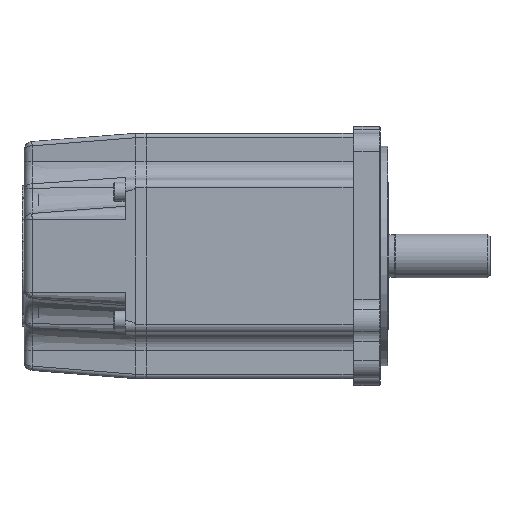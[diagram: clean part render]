
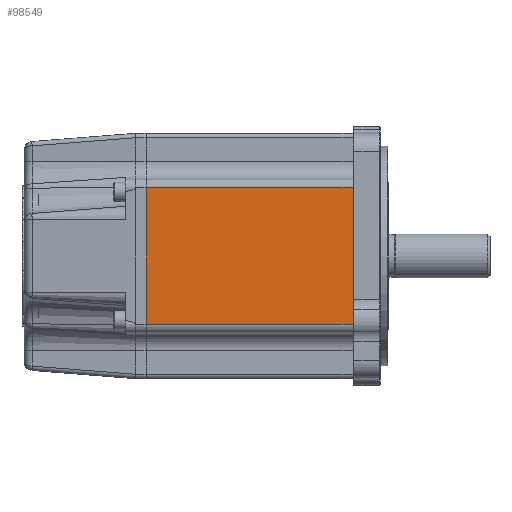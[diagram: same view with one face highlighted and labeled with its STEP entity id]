
A CAD part, front view. The second image highlights one B-rep face of the part: STEP entity #98549.
In plain terms, the highlighted planar face has unit normal (0, -1, 0).
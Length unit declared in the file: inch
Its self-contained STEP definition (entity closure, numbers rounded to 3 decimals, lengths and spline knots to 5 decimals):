
#3008 = DIRECTION ( 'NONE',  ( 1., 0., 0. ) ) ;
#5747 = VERTEX_POINT ( 'NONE', #130129 ) ;
#6082 = EDGE_CURVE ( 'NONE', #124126, #86004, #42644, .T. ) ;
#29445 = LINE ( 'NONE', #134989, #124829 ) ;
#40572 = VECTOR ( 'NONE', #3008, 39.37008 ) ;
#42083 = CARTESIAN_POINT ( 'NONE',  ( -0.39, -1.76, -0.979 ) ) ;
#42644 = LINE ( 'NONE', #148953, #75619 ) ;
#56139 = VERTEX_POINT ( 'NONE', #111633 ) ;
#56513 = PLANE ( 'NONE',  #107607 ) ;
#57581 = CARTESIAN_POINT ( 'NONE',  ( -3.36, -1.76, -1.76 ) ) ;
#62312 = ORIENTED_EDGE ( 'NONE', *, *, #6082, .T. ) ;
#67976 = ORIENTED_EDGE ( 'NONE', *, *, #158493, .T. ) ;
#70027 = DIRECTION ( 'NONE',  ( 0., 0., 1. ) ) ;
#72123 = CARTESIAN_POINT ( 'NONE',  ( -0.39, -1.76, 0.979 ) ) ;
#73555 = LINE ( 'NONE', #42083, #40572 ) ;
#75619 = VECTOR ( 'NONE', #99407, 39.37008 ) ;
#79752 = VECTOR ( 'NONE', #95651, 39.37008 ) ;
#85928 = CARTESIAN_POINT ( 'NONE',  ( -0.39, -1.76, -0.979 ) ) ;
#86004 = VERTEX_POINT ( 'NONE', #72123 ) ;
#95327 = EDGE_CURVE ( 'NONE', #86004, #5747, #29445, .T. ) ;
#95651 = DIRECTION ( 'NONE',  ( 0., 0., 1. ) ) ;
#98549 = ADVANCED_FACE ( 'NONE', ( #113619 ), #56513, .F. ) ;
#99201 = ORIENTED_EDGE ( 'NONE', *, *, #142408, .F. ) ;
#99407 = DIRECTION ( 'NONE',  ( 0., 0., 1. ) ) ;
#103109 = ORIENTED_EDGE ( 'NONE', *, *, #95327, .T. ) ;
#107607 = AXIS2_PLACEMENT_3D ( 'NONE', #57581, #144645, #70027 ) ;
#109925 = DIRECTION ( 'NONE',  ( -1., 0., 0. ) ) ;
#111633 = CARTESIAN_POINT ( 'NONE',  ( -3.36, -1.76, -0.979 ) ) ;
#113619 = FACE_OUTER_BOUND ( 'NONE', #161425, .T. ) ;
#124126 = VERTEX_POINT ( 'NONE', #85928 ) ;
#124829 = VECTOR ( 'NONE', #109925, 39.37008 ) ;
#130129 = CARTESIAN_POINT ( 'NONE',  ( -3.36, -1.76, 0.979 ) ) ;
#132728 = CARTESIAN_POINT ( 'NONE',  ( -3.36, -1.76, -1.76 ) ) ;
#134989 = CARTESIAN_POINT ( 'NONE',  ( -3.36, -1.76, 0.979 ) ) ;
#142408 = EDGE_CURVE ( 'NONE', #56139, #5747, #149856, .T. ) ;
#144645 = DIRECTION ( 'NONE',  ( 0., 1., 0. ) ) ;
#148953 = CARTESIAN_POINT ( 'NONE',  ( -0.39, -1.76, -1.76 ) ) ;
#149856 = LINE ( 'NONE', #132728, #79752 ) ;
#158493 = EDGE_CURVE ( 'NONE', #56139, #124126, #73555, .T. ) ;
#161425 = EDGE_LOOP ( 'NONE', ( #62312, #103109, #99201, #67976 ) ) ;
